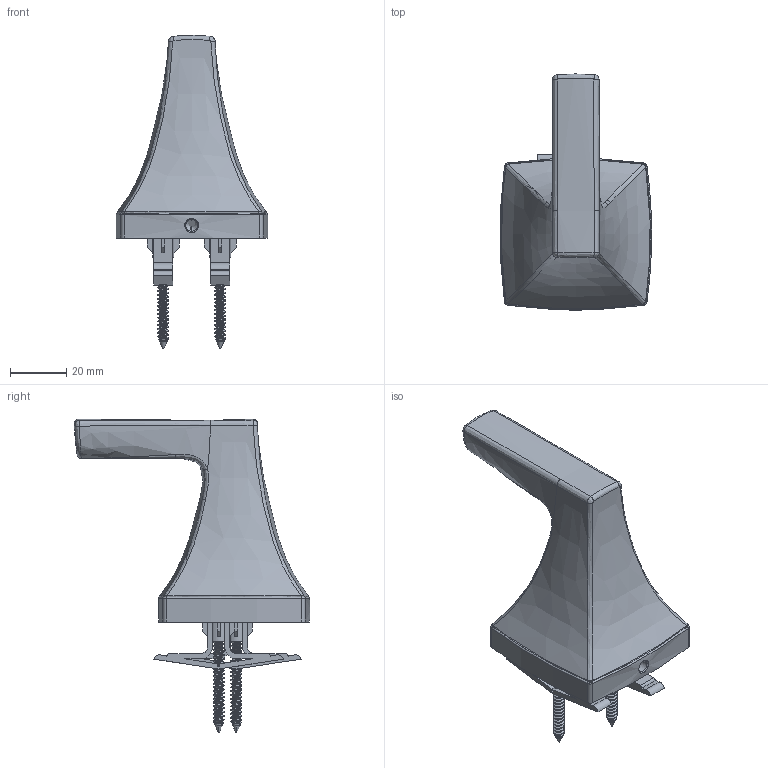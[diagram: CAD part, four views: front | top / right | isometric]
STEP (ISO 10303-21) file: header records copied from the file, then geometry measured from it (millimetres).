
FILE_DESCRIPTION (( 'STEP AP214' ), '1' );
FILE_NAME ('563RH.STEP', '2025-01-02T06:03:29', ( '' ), ( '' ), 'SwSTEP 2.0', 'SolidWorks 2023', '' );
FILE_SCHEMA (( 'AUTOMOTIVE_DESIGN' ));
Length unit declared in the file: inch
Products named in the file (1): 563RH
Bounding box: 54.01 x 84.16 x 111.89 mm (x, y, z)
Surface area: 22701.7 mm2 (no closed solid volume)
Topology: 0 solids, 9 shells, 389 faces, 1211 edges, 803 vertices
Faces by surface type: cylinder 117, plane 113, bspline 96, torus 33, cone 20, sphere 10
Entity records: 33815 total; most frequent: CARTESIAN_POINT 24599, ORIENTED_EDGE 2182, DIRECTION 1383, EDGE_CURVE 1205, VERTEX_POINT 803, B_SPLINE_CURVE_WITH_KNOTS 618, AXIS2_PLACEMENT_3D 514, EDGE_LOOP 400
